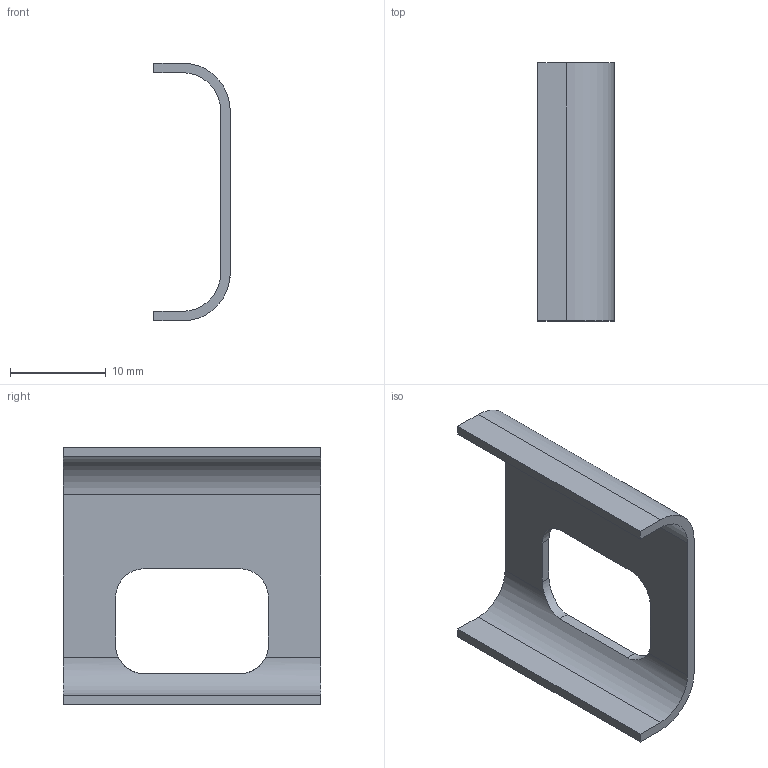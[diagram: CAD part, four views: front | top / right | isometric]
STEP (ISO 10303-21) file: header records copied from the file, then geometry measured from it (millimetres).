
FILE_DESCRIPTION(('Open CASCADE Model'),'2;1');
FILE_NAME('Open CASCADE Shape Model','2026-09-06T11:32:52',('Author'),( 'Open CASCADE'),'Open CASCADE STEP processor 7.7','Open CASCADE 7.7' ,'Unknown');
FILE_SCHEMA(('AUTOMOTIVE_DESIGN { 1 0 10303 214 1 1 1 1 }'));
Length unit declared in the file: millimetre
Products named in the file (1): Open CASCADE STEP translator 7.7 3
Bounding box: 8 x 27 x 27 mm (x, y, z)
Volume: 833.8 mm3; surface area: 1845.9 mm2
Topology: 1 solids, 1 shells, 22 faces, 66 edges, 44 vertices
Faces by surface type: plane 14, cylinder 8
Entity records: 1834 total; most frequent: CARTESIAN_POINT 601, DIRECTION 204, ORIENTED_EDGE 132, PCURVE 132, DEFINITIONAL_REPRESENTATION 132, LINE 118, VECTOR 118, EDGE_CURVE 66
